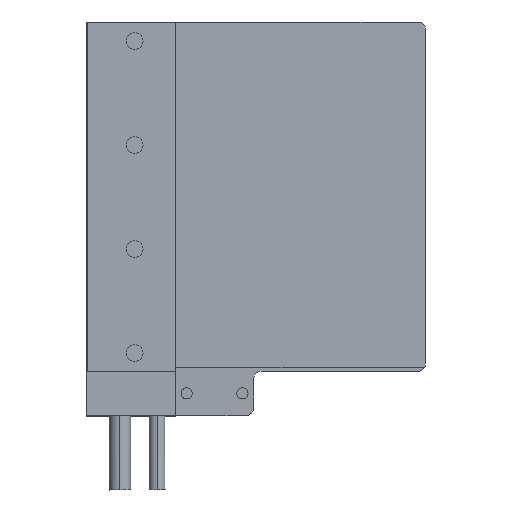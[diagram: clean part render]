
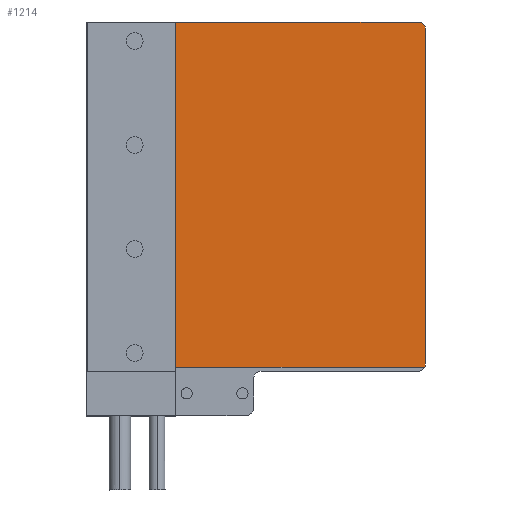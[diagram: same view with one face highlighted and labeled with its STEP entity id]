
A CAD part, front view. The second image highlights one B-rep face of the part: STEP entity #1214.
In plain terms, the highlighted planar face has unit normal (0, -1, 0).
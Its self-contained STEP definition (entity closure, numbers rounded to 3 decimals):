
#5 = VECTOR ( 'NONE', #3908, 1000. ) ;
#118 = DIRECTION ( 'NONE',  ( 0., 0., 1. ) ) ;
#148 = LINE ( 'NONE', #4061, #1057 ) ;
#207 = EDGE_CURVE ( 'NONE', #983, #367, #1609, .T. ) ;
#351 = DIRECTION ( 'NONE',  ( 0., 1., 0. ) ) ;
#367 = VERTEX_POINT ( 'NONE', #813 ) ;
#374 = LINE ( 'NONE', #2707, #1597 ) ;
#663 = CARTESIAN_POINT ( 'NONE',  ( 105.038, 48.547, 30.669 ) ) ;
#813 = CARTESIAN_POINT ( 'NONE',  ( 107.038, 48.547, 30.669 ) ) ;
#828 = AXIS2_PLACEMENT_3D ( 'NONE', #3321, #3964, #1096 ) ;
#983 = VERTEX_POINT ( 'NONE', #1844 ) ;
#992 = PLANE ( 'NONE',  #3188 ) ;
#1048 = CARTESIAN_POINT ( 'NONE',  ( 39.738, 48.547, 122.669 ) ) ;
#1057 = VECTOR ( 'NONE', #3100, 1000. ) ;
#1095 = EDGE_LOOP ( 'NONE', ( #2298, #2699, #4135, #1903, #1956, #1311 ) ) ;
#1096 = DIRECTION ( 'NONE',  ( 1., 0., 0. ) ) ;
#1214 = ADVANCED_FACE ( 'NONE', ( #3947 ), #992, .F. ) ;
#1257 = EDGE_CURVE ( 'NONE', #2954, #1507, #1604, .T. ) ;
#1305 = EDGE_CURVE ( 'NONE', #1999, #3342, #374, .T. ) ;
#1311 = ORIENTED_EDGE ( 'NONE', *, *, #207, .T. ) ;
#1507 = VERTEX_POINT ( 'NONE', #2860 ) ;
#1585 = EDGE_CURVE ( 'NONE', #367, #2954, #2846, .T. ) ;
#1597 = VECTOR ( 'NONE', #118, 1000. ) ;
#1604 = CIRCLE ( 'NONE', #828, 2. ) ;
#1609 = CIRCLE ( 'NONE', #2047, 2. ) ;
#1658 = DIRECTION ( 'NONE',  ( 0., 0., 1. ) ) ;
#1844 = CARTESIAN_POINT ( 'NONE',  ( 106.77, 48.547, 29.669 ) ) ;
#1903 = ORIENTED_EDGE ( 'NONE', *, *, #1305, .F. ) ;
#1956 = ORIENTED_EDGE ( 'NONE', *, *, #2660, .F. ) ;
#1999 = VERTEX_POINT ( 'NONE', #3340 ) ;
#2047 = AXIS2_PLACEMENT_3D ( 'NONE', #663, #3217, #1658 ) ;
#2149 = DIRECTION ( 'NONE',  ( 0., 0., 1. ) ) ;
#2163 = CARTESIAN_POINT ( 'NONE',  ( 107.038, 48.547, 16.669 ) ) ;
#2298 = ORIENTED_EDGE ( 'NONE', *, *, #1585, .T. ) ;
#2640 = CARTESIAN_POINT ( 'NONE',  ( 107.038, 48.547, 16.669 ) ) ;
#2660 = EDGE_CURVE ( 'NONE', #983, #1999, #3564, .T. ) ;
#2699 = ORIENTED_EDGE ( 'NONE', *, *, #1257, .T. ) ;
#2707 = CARTESIAN_POINT ( 'NONE',  ( 39.738, 48.547, 16.669 ) ) ;
#2846 = LINE ( 'NONE', #2163, #3940 ) ;
#2860 = CARTESIAN_POINT ( 'NONE',  ( 105.038, 48.547, 122.669 ) ) ;
#2923 = DIRECTION ( 'NONE',  ( 1., 0., 0. ) ) ;
#2943 = CARTESIAN_POINT ( 'NONE',  ( 107.038, 48.547, 29.669 ) ) ;
#2954 = VERTEX_POINT ( 'NONE', #4004 ) ;
#3100 = DIRECTION ( 'NONE',  ( -1., 0., 0. ) ) ;
#3188 = AXIS2_PLACEMENT_3D ( 'NONE', #2640, #351, #2923 ) ;
#3217 = DIRECTION ( 'NONE',  ( 0., -1., 0. ) ) ;
#3321 = CARTESIAN_POINT ( 'NONE',  ( 105.038, 48.547, 120.669 ) ) ;
#3340 = CARTESIAN_POINT ( 'NONE',  ( 39.738, 48.547, 29.669 ) ) ;
#3342 = VERTEX_POINT ( 'NONE', #1048 ) ;
#3515 = EDGE_CURVE ( 'NONE', #1507, #3342, #148, .T. ) ;
#3564 = LINE ( 'NONE', #2943, #5 ) ;
#3908 = DIRECTION ( 'NONE',  ( -1., 0., 0. ) ) ;
#3940 = VECTOR ( 'NONE', #2149, 1000. ) ;
#3947 = FACE_OUTER_BOUND ( 'NONE', #1095, .T. ) ;
#3964 = DIRECTION ( 'NONE',  ( 0., -1., 0. ) ) ;
#4004 = CARTESIAN_POINT ( 'NONE',  ( 107.038, 48.547, 120.669 ) ) ;
#4061 = CARTESIAN_POINT ( 'NONE',  ( 107.038, 48.547, 122.669 ) ) ;
#4135 = ORIENTED_EDGE ( 'NONE', *, *, #3515, .T. ) ;
